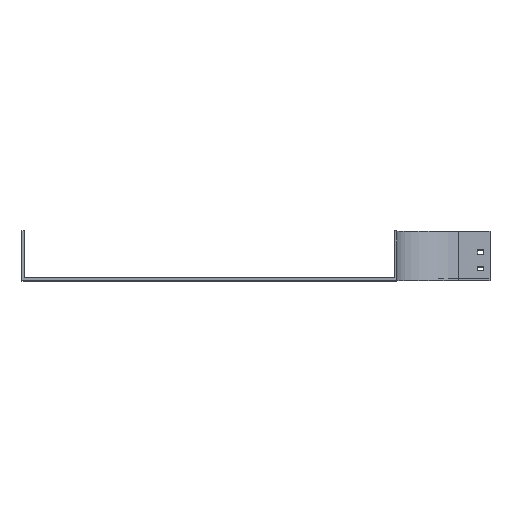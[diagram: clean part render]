
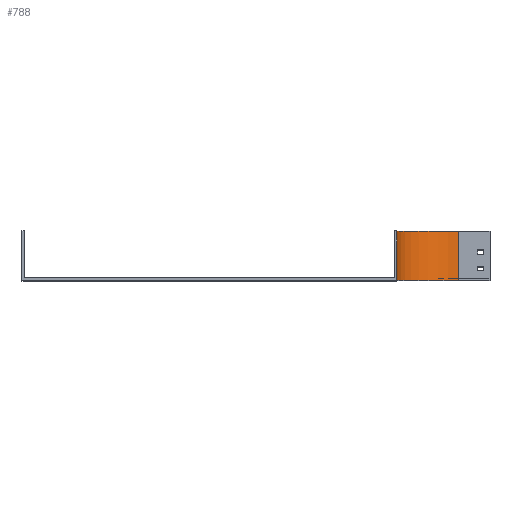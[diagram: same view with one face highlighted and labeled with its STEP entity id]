
A CAD part, top view. The second image highlights one B-rep face of the part: STEP entity #788.
In plain terms, the highlighted cylindrical face has radius 100 mm (diameter 200 mm), a partial arc.
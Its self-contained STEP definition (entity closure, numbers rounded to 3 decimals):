
#32 = EDGE_LOOP ( 'NONE', ( #2307, #1283, #350, #1891 ) ) ;
#34 = FACE_OUTER_BOUND ( 'NONE', #32, .T. ) ;
#224 = CARTESIAN_POINT ( 'NONE',  ( 0., 0., 0. ) ) ;
#252 = DIRECTION ( 'NONE',  ( 0., 0., -1. ) ) ;
#293 = AXIS2_PLACEMENT_3D ( 'NONE', #466, #925, #252 ) ;
#350 = ORIENTED_EDGE ( 'NONE', *, *, #1655, .F. ) ;
#357 = DIRECTION ( 'NONE',  ( 0., -1., 0. ) ) ;
#466 = CARTESIAN_POINT ( 'NONE',  ( 0., 79., 0. ) ) ;
#488 = CIRCLE ( 'NONE', #2540, 100. ) ;
#496 = CARTESIAN_POINT ( 'NONE',  ( 0., 79., 0. ) ) ;
#683 = DIRECTION ( 'NONE',  ( 0., -1., 0. ) ) ;
#694 = CARTESIAN_POINT ( 'NONE',  ( -100., 79., 0. ) ) ;
#706 = AXIS2_PLACEMENT_3D ( 'NONE', #496, #683, #1288 ) ;
#788 = ADVANCED_FACE ( 'NONE', ( #34 ), #2598, .F. ) ;
#925 = DIRECTION ( 'NONE',  ( 0., -1., 0. ) ) ;
#971 = DIRECTION ( 'NONE',  ( 0., -1., 0. ) ) ;
#982 = LINE ( 'NONE', #1424, #1724 ) ;
#1107 = DIRECTION ( 'NONE',  ( 0., -1., 0. ) ) ;
#1146 = LINE ( 'NONE', #1997, #1987 ) ;
#1168 = VERTEX_POINT ( 'NONE', #2062 ) ;
#1250 = CARTESIAN_POINT ( 'NONE',  ( -100., 0., 0. ) ) ;
#1283 = ORIENTED_EDGE ( 'NONE', *, *, #1483, .F. ) ;
#1288 = DIRECTION ( 'NONE',  ( 0., 0., -1. ) ) ;
#1298 = VERTEX_POINT ( 'NONE', #694 ) ;
#1424 = CARTESIAN_POINT ( 'NONE',  ( 0., 79., -100. ) ) ;
#1438 = EDGE_CURVE ( 'NONE', #1298, #2752, #1146, .T. ) ;
#1483 = EDGE_CURVE ( 'NONE', #2716, #1168, #982, .T. ) ;
#1655 = EDGE_CURVE ( 'NONE', #1298, #2716, #2433, .T. ) ;
#1724 = VECTOR ( 'NONE', #357, 1000. ) ;
#1891 = ORIENTED_EDGE ( 'NONE', *, *, #1438, .T. ) ;
#1949 = DIRECTION ( 'NONE',  ( 0., 0., -1. ) ) ;
#1987 = VECTOR ( 'NONE', #971, 1000. ) ;
#1997 = CARTESIAN_POINT ( 'NONE',  ( -100., 79., 0. ) ) ;
#2062 = CARTESIAN_POINT ( 'NONE',  ( 0., 0., -100. ) ) ;
#2192 = EDGE_CURVE ( 'NONE', #2752, #1168, #488, .T. ) ;
#2307 = ORIENTED_EDGE ( 'NONE', *, *, #2192, .T. ) ;
#2433 = CIRCLE ( 'NONE', #706, 100. ) ;
#2540 = AXIS2_PLACEMENT_3D ( 'NONE', #224, #1107, #1949 ) ;
#2598 = CYLINDRICAL_SURFACE ( 'NONE', #293, 100. ) ;
#2716 = VERTEX_POINT ( 'NONE', #2750 ) ;
#2750 = CARTESIAN_POINT ( 'NONE',  ( 0., 79., -100. ) ) ;
#2752 = VERTEX_POINT ( 'NONE', #1250 ) ;
